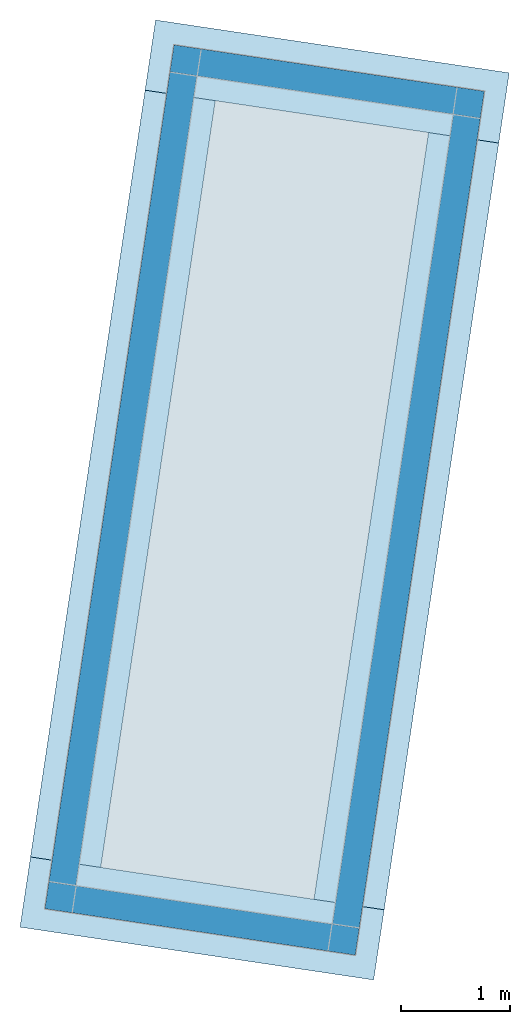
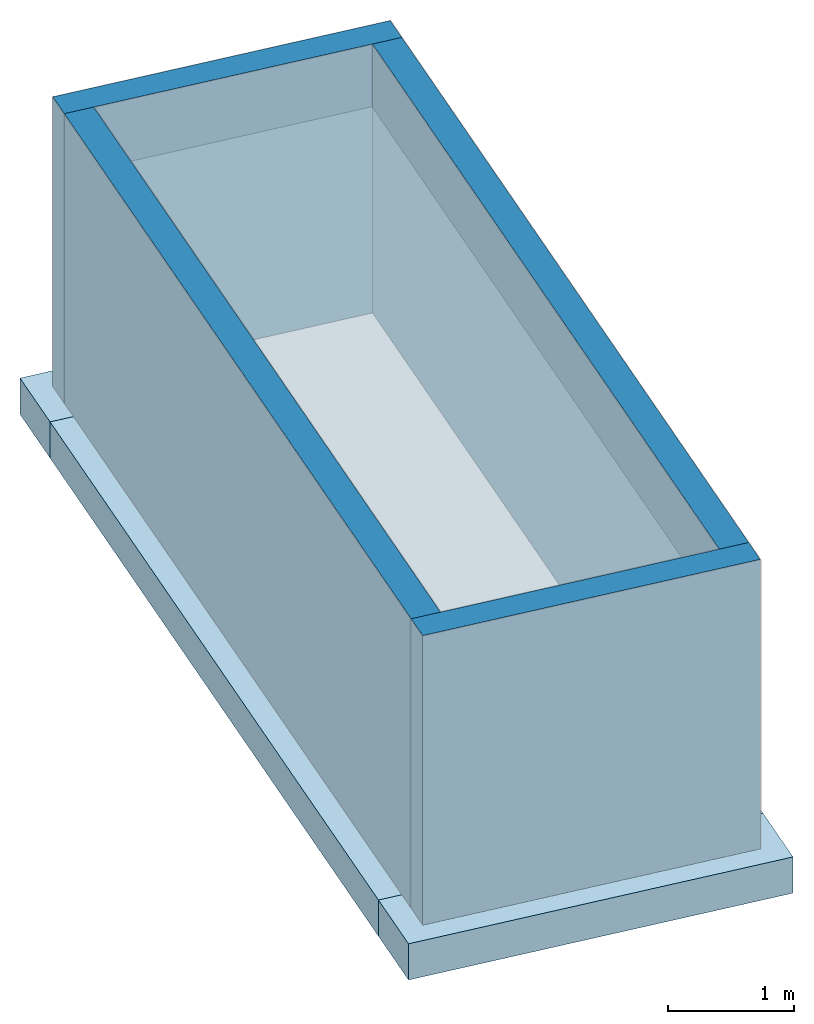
# One storey, part 1 of 3: 4 footings, 4 walls, 1 slab, 1 element without a shape of its own.
"""IFC4 building model written with IfcOpenShell, lengths in metres."""

import ifcopenshell
import ifcopenshell.guid

model = None  # the IFC model being written
_history = None  # IfcOwnerHistory: only IFC2X3 demands one
_inside = {}  # id of a spatial element -> (the spatial element, [elements in it])
_under = {}  # id of a project, library or spatial element -> (it, [spatial elements below it])
_declared = {}  # id of a project -> (the project, [libraries it declares])
_typed = {}  # id of a type object -> (the type object, [elements of that type])
_made_of = {}  # id of a material, layer set ... -> (it, [elements and type objects made of it])


def new_model(schema):
    """Start an empty IFC model of exactly this schema.

    Asked for "IFC4X3", IfcOpenShell would pick the latest addendum, in which some entities
    have other attributes; the version numbers below select the first issue.
    IFC2X3 requires an IfcOwnerHistory on every rooted entity: one is made here for all.
    """
    global model, _history
    if schema == "IFC4X3":
        model = ifcopenshell.file(schema_version=(4, 3, 0, 0))
    else:
        model = ifcopenshell.file(schema=schema)
    _inside.clear()
    _under.clear()
    _declared.clear()
    _typed.clear()
    _made_of.clear()
    _history = None
    if model.schema == "IFC2X3":
        org = make("IfcOrganization", Name="unknown")
        user = make(
            "IfcPersonAndOrganization",
            ThePerson=make("IfcPerson", FamilyName="unknown"),
            TheOrganization=org,
        )
        app = make(
            "IfcApplication",
            ApplicationDeveloper=org,
            Version="unknown",
            ApplicationFullName="unknown",
            ApplicationIdentifier="unknown",
        )
        _history = make(
            "IfcOwnerHistory",
            OwningUser=user,
            OwningApplication=app,
            ChangeAction="ADDED",
            CreationDate=0,
        )
    return model


def make(cls, **values):
    """One entity of the class cls with the attributes given. An attribute that is None is left unset."""
    return model.create_entity(
        cls, **{name: value for name, value in values.items() if value is not None}
    )


def rooted(cls, **values):
    """An entity with a GlobalId (a new one), such as an element, a storey or a relation."""
    return make(cls, GlobalId=ifcopenshell.guid.new(), OwnerHistory=_history, **values)


def si_unit(unit_type, name, prefix=None):
    """IfcSIUnit, for example si_unit("LENGTHUNIT", "METRE", prefix="MILLI")."""
    return make("IfcSIUnit", UnitType=unit_type, Prefix=prefix, Name=name)


def assignment(units):
    """IfcUnitAssignment: the units of a project."""
    return None if units is None else make("IfcUnitAssignment", Units=units)


def point(xyz):
    """IfcCartesianPoint."""
    return None if xyz is None else make("IfcCartesianPoint", Coordinates=xyz)


def direction(xyz):
    """IfcDirection."""
    return None if xyz is None else make("IfcDirection", DirectionRatios=xyz)


def frame(location, z_axis=None, x_axis=None):
    """IfcAxis2Placement3D, a coordinate frame: its origin and axes. An axis left out is left unset."""
    return make(
        "IfcAxis2Placement3D",
        Location=point(location),
        Axis=direction(z_axis),
        RefDirection=direction(x_axis),
    )


def origin_with_axes():
    """The frame at (0, 0, 0) with the z axis (0, 0, 1) and the x axis (1, 0, 0) written out."""
    return frame((0.0, 0.0, 0.0), z_axis=(0.0, 0.0, 1.0), x_axis=(1.0, 0.0, 0.0))


def place(relative_to, where):
    """IfcLocalPlacement: puts the frame where relative to a parent placement (None: the world)."""
    return make(
        "IfcLocalPlacement", PlacementRelTo=relative_to, RelativePlacement=where
    )


def context(
    kind, dimensions, precision=None, world=None, true_north=None, identifier=None
):
    """IfcGeometricRepresentationContext, for example the 3D "Model" context."""
    return make(
        "IfcGeometricRepresentationContext",
        ContextIdentifier=identifier,
        ContextType=kind,
        CoordinateSpaceDimension=dimensions,
        Precision=precision,
        WorldCoordinateSystem=world,
        TrueNorth=true_north,
    )


def subcontext(parent, identifier, kind, view, scale=None):
    """IfcGeometricRepresentationSubContext, for example "Body" below "Model"."""
    return make(
        "IfcGeometricRepresentationSubContext",
        ContextIdentifier=identifier,
        ContextType=kind,
        ParentContext=parent,
        TargetScale=scale,
        TargetView=view,
    )


def project(units=None, contexts=None):
    """IfcProject with its units and contexts."""
    return rooted(
        "IfcProject",
        Name="project",
        RepresentationContexts=contexts,
        UnitsInContext=assignment(units),
    )


def spatial(cls, under=None, at=None, **own):
    """A site, building, storey or space (cls), placed at a placement, below another one or the project."""
    s = rooted(cls, ObjectPlacement=at, **own)
    if under is not None:
        _under.setdefault(under.id(), (under, []))[1].append(s)
    return s


def polyline(points):
    """IfcPolyline through the points."""
    return make("IfcPolyline", Points=[point(p) for p in points])


def outline(outer, holes=None, kind="AREA"):
    """IfcArbitraryClosedProfileDef: a profile drawn as a closed curve; with holes, ...WithVoids."""
    if holes is None:
        return make("IfcArbitraryClosedProfileDef", ProfileType=kind, OuterCurve=outer)
    return make(
        "IfcArbitraryProfileDefWithVoids",
        ProfileType=kind,
        OuterCurve=outer,
        InnerCurves=holes,
    )


def extrude(swept, where, along, depth):
    """IfcExtrudedAreaSolid: the profile swept, set in the frame where, extruded along a direction by depth."""
    return make(
        "IfcExtrudedAreaSolid",
        SweptArea=swept,
        Position=where,
        ExtrudedDirection=direction(along),
        Depth=depth,
    )


def shape(context_of_items, identifier, shape_type, items):
    """IfcShapeRepresentation: the items that make up one representation, for example the "Body"."""
    return make(
        "IfcShapeRepresentation",
        ContextOfItems=context_of_items,
        RepresentationIdentifier=identifier,
        RepresentationType=shape_type,
        Items=items,
    )


def material(Name=None, Category=None):
    """IfcMaterial."""
    return make("IfcMaterial", Name=Name, Category=Category)


def made_of(thing, what):
    """Note that an element or type object is made of a material, layer set ...; save() writes the relation."""
    if what is not None:
        _made_of.setdefault(what.id(), (what, []))[1].append(thing)
    return thing


def element(
    cls,
    number,
    at=None,
    inside=None,
    cuts=None,
    type_object=None,
    material=None,
    context=None,
    identifier="Body",
    shape_type=None,
    held_by="IfcProductDefinitionShape",
    body=None,
    shapes=None,
    **own,
):
    """One element of the class cls, such as IfcWall. Its Tag is "e" and its number.

    at: its placement. inside: the storey or other place that contains it. cuts: it is an
    opening in that element (IfcRelVoidsElement). A single representation is given by context,
    identifier, shape_type and body (its items); several are given by shapes. held_by: the class
    of the entity that holds the representations. save() writes the other relations.
    """
    e = rooted(cls, Tag="e%d" % number, ObjectPlacement=at, **own)
    if body is not None:
        shapes = [shape(context, identifier, shape_type, body)]
    if shapes is not None:
        e.Representation = make(held_by, Representations=shapes)
    if inside is not None:
        _inside.setdefault(inside.id(), (inside, []))[1].append(e)
    if cuts is not None:
        rooted(
            "IfcRelVoidsElement", RelatingBuildingElement=cuts, RelatedOpeningElement=e
        )
    if type_object is not None:
        _typed.setdefault(type_object.id(), (type_object, []))[1].append(e)
    return made_of(e, material)


def aggregate(whole, parts):
    """IfcRelAggregates: a whole, such as a stair, and the parts it consists of."""
    return rooted("IfcRelAggregates", RelatingObject=whole, RelatedObjects=parts)


def save(model, path):
    """Write the relations noted so far, then the file.

    IfcRelAggregates (storeys below a building ...), IfcRelContainedInSpatialStructure (elements
    in a storey), IfcRelDefinesByType, IfcRelAssociatesMaterial and IfcRelDeclares: one each for
    every whole, place, type object, material and project.
    """
    for whole, parts in _under.values():
        aggregate(whole, parts)
    for where, things in _inside.values():
        rooted(
            "IfcRelContainedInSpatialStructure",
            RelatedElements=things,
            RelatingStructure=where,
        )
    for kind, things in _typed.values():
        rooted("IfcRelDefinesByType", RelatedObjects=things, RelatingType=kind)
    for what, things in _made_of.values():
        rooted("IfcRelAssociatesMaterial", RelatedObjects=things, RelatingMaterial=what)
    for by, libraries in _declared.values():
        rooted("IfcRelDeclares", RelatingContext=by, RelatedDefinitions=libraries)
    model.write(path)


model = new_model("IFC4")

# Units and contexts
model_context = context("Model", 3, precision=1e-05, world=origin_with_axes(), true_north=direction((0.0, 1.0)))
body_context = subcontext(model_context, "Body", "Model", "MODEL_VIEW")
ifc_project = project(units=[si_unit("VOLUMEUNIT", "CUBIC_METRE"), si_unit("LENGTHUNIT", "METRE"), si_unit("AREAUNIT", "SQUARE_METRE")], contexts=[model_context])

# Site, building, storey
site_placement = place(None, origin_with_axes())
site = spatial("IfcSite", under=ifc_project, at=site_placement, Name="Lares · Rua das Mercês · artigo 4771")
building_placement = place(site_placement, frame((15.0, 9.7, 13.9), z_axis=(0.0, 0.0, 1.0), x_axis=(0.989015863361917, -0.147809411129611, 0.0)))
building = spatial("IfcBuilding", under=site, at=building_placement, Name="Casa Sobreposta")
storey_placement = place(building_placement, frame((0.0, 0.0, -2.6), z_axis=(0.0, 0.0, 1.0), x_axis=(1.0, 0.0, 0.0)))
storey = spatial("IfcBuildingStorey", under=building, at=storey_placement, Name="-01 · Cisterna sob o terraço", Elevation=11.3)

# Tank, footings, slab, walls
tank_placement = place(storey_placement, frame((0.0, 0.0, 2.6), z_axis=(0.0, 0.0, 1.0), x_axis=(1.0, 0.0, 0.0)))
tank = element("IfcTank", 1, at=tank_placement, inside=storey, Name="Cisterna · reservatório pluvial de estudo", ObjectType="RAINWATER_CISTERN", PredefinedType="STORAGE")
ifc_material = material(Name="Betão armado / Stahlbeton", Category="concrete")
footing_1_placement = place(tank_placement, frame((0.0, 0.0, -3.15), z_axis=(0.0, 0.0, 1.0), x_axis=(1.0, 0.0, 0.0)))
footing_1 = element("IfcFooting", 2, at=footing_1_placement, material=ifc_material, Name="Cisterna · sapata corrida poente", PredefinedType="STRIP_FOOTING", context=body_context, shape_type="SweptSolid", body=[
    extrude(outline(polyline([(-6.325, 6.325), (-6.325, 6.65), (-5.675, 6.65), (-5.675, -1.425), (-5.675, -1.75), (-6.325, -1.75), (-6.325, 6.325)])), origin_with_axes(), (0.0, 0.0, 1.0), 0.35),
])
footing_2_placement = place(tank_placement, frame((0.0, 0.0, -3.15), z_axis=(0.0, 0.0, 1.0), x_axis=(1.0, 0.0, 0.0)))
footing_2 = element("IfcFooting", 3, at=footing_2_placement, material=ifc_material, Name="Cisterna · sapata corrida norte", PredefinedType="STRIP_FOOTING", context=body_context, shape_type="SweptSolid", body=[
    extrude(outline(polyline([(-3.375, 6.65), (-3.05, 6.65), (-3.05, 6.0), (-6.0, 6.0), (-6.325, 6.0), (-6.325, 6.65), (-3.375, 6.65)])), origin_with_axes(), (0.0, 0.0, 1.0), 0.35),
])
footing_3_placement = place(tank_placement, frame((0.0, 0.0, -3.15), z_axis=(0.0, 0.0, 1.0), x_axis=(1.0, 0.0, 0.0)))
footing_3 = element("IfcFooting", 4, at=footing_3_placement, material=ifc_material, Name="Cisterna · sapata corrida sul", PredefinedType="STRIP_FOOTING", context=body_context, shape_type="SweptSolid", body=[
    extrude(outline(polyline([(-3.375, -1.1), (-3.05, -1.1), (-3.05, -1.75), (-6.0, -1.75), (-6.325, -1.75), (-6.325, -1.1), (-3.375, -1.1)])), origin_with_axes(), (0.0, 0.0, 1.0), 0.35),
])
footing_4_placement = place(tank_placement, frame((0.0, 0.0, -3.15), z_axis=(0.0, 0.0, 1.0), x_axis=(1.0, 0.0, 0.0)))
footing_4 = element("IfcFooting", 5, at=footing_4_placement, material=ifc_material, Name="Cisterna · sapata corrida nascente", PredefinedType="STRIP_FOOTING", context=body_context, shape_type="SweptSolid", body=[
    extrude(outline(polyline([(-3.7, 6.325), (-3.7, 6.65), (-3.05, 6.65), (-3.05, -1.425), (-3.05, -1.75), (-3.7, -1.75), (-3.7, 6.325)])), origin_with_axes(), (0.0, 0.0, 1.0), 0.35),
])
slab_placement = place(tank_placement, frame((0.0, 0.0, -2.8), z_axis=(0.0, 0.0, 1.0), x_axis=(1.0, 0.0, 0.0)))
slab = element("IfcSlab", 6, at=slab_placement, material=ifc_material, Name="Cisterna · laje de fundo 200 mm", PredefinedType="BASESLAB", context=body_context, shape_type="SweptSolid", body=[
    extrude(outline(polyline([(-3.25, -1.55), (-3.25, 6.45), (-6.125, 6.45), (-6.125, -1.55), (-3.25, -1.55)])), origin_with_axes(), (0.0, 0.0, 1.0), 0.2),
])
wall_1_placement = place(tank_placement, frame((0.0, 0.0, -2.8), z_axis=(0.0, 0.0, 1.0), x_axis=(1.0, 0.0, 0.0)))
wall_1 = element("IfcWall", 7, at=wall_1_placement, material=ifc_material, Name="Cisterna · parede poente", ObjectType="Cisterna · parede poente", PredefinedType="USERDEFINED", context=body_context, shape_type="SweptSolid", body=[
    extrude(outline(polyline([(-6.125, 6.325), (-6.125, 6.45), (-5.875, 6.45), (-5.875, -1.425), (-5.875, -1.55), (-6.125, -1.55), (-6.125, 6.325)])), origin_with_axes(), (0.0, 0.0, 1.0), 2.8),
])
wall_2_placement = place(tank_placement, frame((0.0, 0.0, -2.8), z_axis=(0.0, 0.0, 1.0), x_axis=(1.0, 0.0, 0.0)))
wall_2 = element("IfcWall", 8, at=wall_2_placement, material=ifc_material, Name="Cisterna · parede norte", ObjectType="Cisterna · parede norte", PredefinedType="USERDEFINED", context=body_context, shape_type="SweptSolid", body=[
    extrude(outline(polyline([(-3.375, 6.45), (-3.25, 6.45), (-3.25, 6.2), (-6.0, 6.2), (-6.125, 6.2), (-6.125, 6.45), (-3.375, 6.45)])), origin_with_axes(), (0.0, 0.0, 1.0), 2.8),
])
wall_3_placement = place(tank_placement, frame((0.0, 0.0, -2.8), z_axis=(0.0, 0.0, 1.0), x_axis=(1.0, 0.0, 0.0)))
wall_3 = element("IfcWall", 9, at=wall_3_placement, material=ifc_material, Name="Cisterna · parede sul", ObjectType="Cisterna · parede sul", PredefinedType="USERDEFINED", context=body_context, shape_type="SweptSolid", body=[
    extrude(outline(polyline([(-3.375, -1.3), (-3.25, -1.3), (-3.25, -1.55), (-6.0, -1.55), (-6.125, -1.55), (-6.125, -1.3), (-3.375, -1.3)])), origin_with_axes(), (0.0, 0.0, 1.0), 2.8),
])
wall_4_placement = place(tank_placement, frame((0.0, 0.0, -2.8), z_axis=(0.0, 0.0, 1.0), x_axis=(1.0, 0.0, 0.0)))
wall_4 = element("IfcWall", 10, at=wall_4_placement, material=ifc_material, Name="Cisterna · parede nascente", ObjectType="Cisterna · parede nascente", PredefinedType="USERDEFINED", context=body_context, shape_type="SweptSolid", body=[
    extrude(outline(polyline([(-3.5, 6.325), (-3.5, 6.45), (-3.25, 6.45), (-3.25, -1.425), (-3.25, -1.55), (-3.5, -1.55), (-3.5, 6.325)])), origin_with_axes(), (0.0, 0.0, 1.0), 2.8),
])
aggregate(tank, [slab, wall_1, footing_1, wall_2, footing_2, wall_3, footing_3, wall_4, footing_4])

save(model, "model.ifc")
